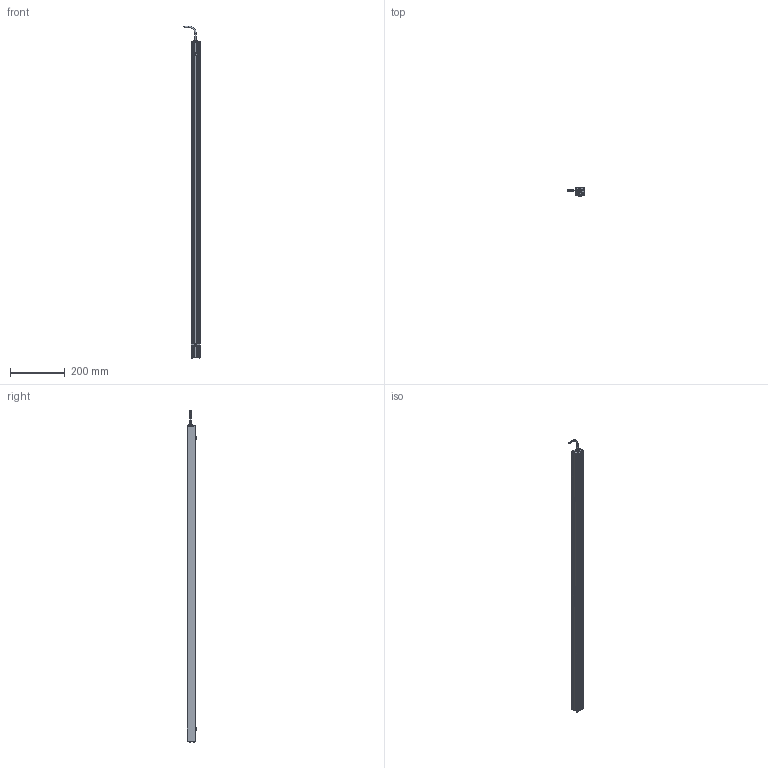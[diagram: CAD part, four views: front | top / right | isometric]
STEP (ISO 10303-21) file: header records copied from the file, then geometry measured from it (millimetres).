
FILE_DESCRIPTION (( 'STEP AP214' ), '1' );
FILE_NAME ('AL150XXXX_AL150264.stp', '2021-04-29T15:41:32', ( '' ), ( '' ), 'SwSTEP 2.0', 'SolidWorks 2018', '' );
FILE_SCHEMA (( 'AUTOMOTIVE_DESIGN' ));
Length unit declared in the file: inch
Products named in the file (12): Part1^AL150XXXX; 1157 (no strap); 150-03-006-XXXX_150-03-006-264; CHM6x8_91460A312; 093145_93701A253; 116-02-006; 150-01-005-XXX_150-01-005-264; Part2^AL150XXXX; AL150XXXX_AL150264; HN-M6_90592A016; 116-02-007; 092408_TRUNCATED
Assembly tree (18 placements, depth 2):
  Part1^AL150XXXX
  Part2^AL150XXXX
  AL150XXXX_AL150264
    150-01-005-XXX_150-01-005-264
    116-02-006
    093145_93701A253  x8
    HN-M6_90592A016  x2
    CHM6x8_91460A312  x2
    150-03-006-XXXX_150-03-006-264
    116-02-007
    1157 (no strap)
    092408_TRUNCATED
Bounding box: 60.68 x 33.84 x 1215.69 mm (x, y, z)
Volume: 360510.8 mm3; surface area: 382173 mm2
Topology: 26 solids, 26 shells, 1306 faces, 3436 edges, 2127 vertices
Faces by surface type: cylinder 805, cone 249, plane 153, torus 59, bspline 32, sphere 8
Entity records: 18285 total; most frequent: CARTESIAN_POINT 6069, ORIENTED_EDGE 2496, DIRECTION 2311, EDGE_CURVE 1248, AXIS2_PLACEMENT_3D 881, VERTEX_POINT 800, VECTOR 549, LINE 549
